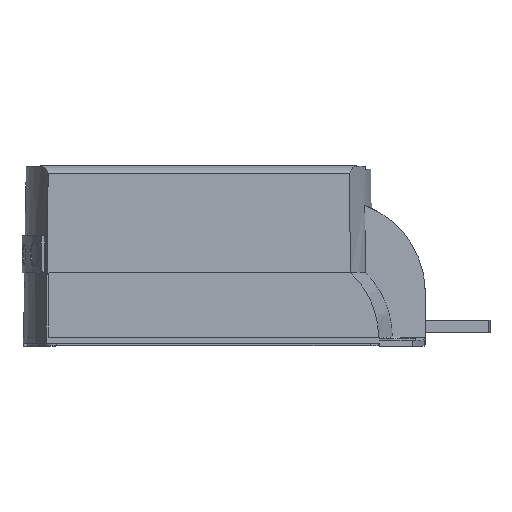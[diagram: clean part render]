
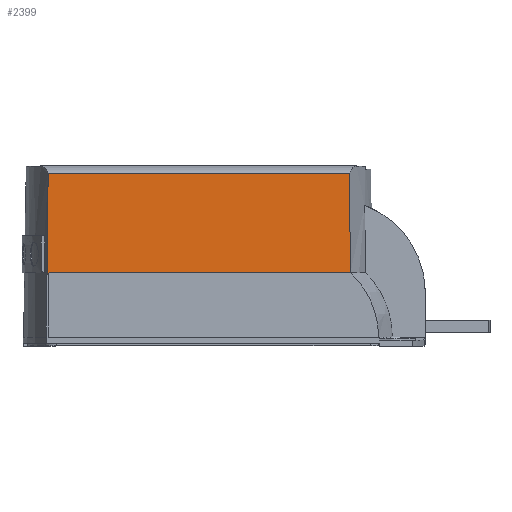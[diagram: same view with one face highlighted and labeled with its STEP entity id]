
A CAD part, front view. The second image highlights one B-rep face of the part: STEP entity #2399.
In plain terms, the highlighted free-form (B-spline) face has degree [1, 1] with [2, 2] control points.
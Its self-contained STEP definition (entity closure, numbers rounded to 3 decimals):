
#2086=B_SPLINE_SURFACE_WITH_KNOTS('',1,1,((#15949,#15950),(#15951,#15952)),
 .UNSPECIFIED.,.F.,.F.,.F.,(2,2),(2,2),(0.,1.),(0.,1.),.UNSPECIFIED.);
#2399=ADVANCED_FACE('',(#2725),#2086,.T.);
#2725=FACE_OUTER_BOUND('',#3001,.T.);
#3001=EDGE_LOOP('',(#3601,#3602,#3603,#3604,#3605));
#3361=(
BOUNDED_CURVE()
B_SPLINE_CURVE(1,(#15643,#15644),.UNSPECIFIED.,.F.,.F.)
B_SPLINE_CURVE_WITH_KNOTS((2,2),(0.,1.),.UNSPECIFIED.)
CURVE()
GEOMETRIC_REPRESENTATION_ITEM()
RATIONAL_B_SPLINE_CURVE((1.01,1.01))
REPRESENTATION_ITEM('')
);
#3601=ORIENTED_EDGE('',*,*,#5673,.F.);
#3602=ORIENTED_EDGE('',*,*,#5624,.T.);
#3603=ORIENTED_EDGE('',*,*,#5786,.T.);
#3604=ORIENTED_EDGE('',*,*,#5719,.F.);
#3605=ORIENTED_EDGE('',*,*,#5796,.F.);
#5055=VERTEX_POINT('',#14301);
#5056=VERTEX_POINT('',#14306);
#5100=VERTEX_POINT('',#14493);
#5132=VERTEX_POINT('',#14744);
#5139=VERTEX_POINT('',#14776);
#5624=EDGE_CURVE('',#5056,#5055,#6546,.T.);
#5673=EDGE_CURVE('',#5056,#5100,#9250,.T.);
#5719=EDGE_CURVE('',#5139,#5132,#6567,.T.);
#5786=EDGE_CURVE('',#5055,#5132,#3361,.T.);
#5796=EDGE_CURVE('',#5100,#5139,#9289,.T.);
#6546=B_SPLINE_CURVE_WITH_KNOTS('',3,(#14302,#14303,#14304,#14305),
 .UNSPECIFIED.,.F.,.F.,(4,4),(0.,1.),.UNSPECIFIED.);
#6567=B_SPLINE_CURVE_WITH_KNOTS('',3,(#14777,#14778,#14779,#14780),
 .UNSPECIFIED.,.F.,.F.,(4,4),(0.,1.),.UNSPECIFIED.);
#9250=LINE('',#14492,#9883);
#9289=LINE('',#15948,#9922);
#9883=VECTOR('',#11450,1.);
#9922=VECTOR('',#11577,1.);
#11450=DIRECTION('',(-1.,0.,0.));
#11577=DIRECTION('',(-1.,0.,0.));
#14301=CARTESIAN_POINT('',(11.859,-33.07,27.156));
#14302=CARTESIAN_POINT('',(12.221,-33.635,-5.25));
#14303=CARTESIAN_POINT('',(12.1,-33.447,5.552));
#14304=CARTESIAN_POINT('',(11.98,-33.258,16.354));
#14305=CARTESIAN_POINT('',(11.859,-33.07,27.156));
#14306=CARTESIAN_POINT('',(12.221,-33.635,-5.25));
#14492=CARTESIAN_POINT('',(-43.016,-33.635,-5.25));
#14493=CARTESIAN_POINT('',(-85.788,-33.635,-5.25));
#14744=CARTESIAN_POINT('',(-86.066,-33.07,27.156));
#14776=CARTESIAN_POINT('',(-86.428,-33.635,-5.25));
#14777=CARTESIAN_POINT('',(-86.428,-33.635,-5.25));
#14778=CARTESIAN_POINT('',(-86.307,-33.447,5.552));
#14779=CARTESIAN_POINT('',(-86.187,-33.258,16.354));
#14780=CARTESIAN_POINT('',(-86.066,-33.07,27.156));
#15643=CARTESIAN_POINT('',(11.859,-33.07,27.156));
#15644=CARTESIAN_POINT('',(-86.066,-33.07,27.156));
#15948=CARTESIAN_POINT('',(-41.375,-33.635,-5.25));
#15949=CARTESIAN_POINT('',(-166.185,-31.514,116.265));
#15950=CARTESIAN_POINT('',(80.153,-31.514,116.265));
#15951=CARTESIAN_POINT('',(-166.185,-34.417,-50.019));
#15952=CARTESIAN_POINT('',(80.153,-34.417,-50.019));
